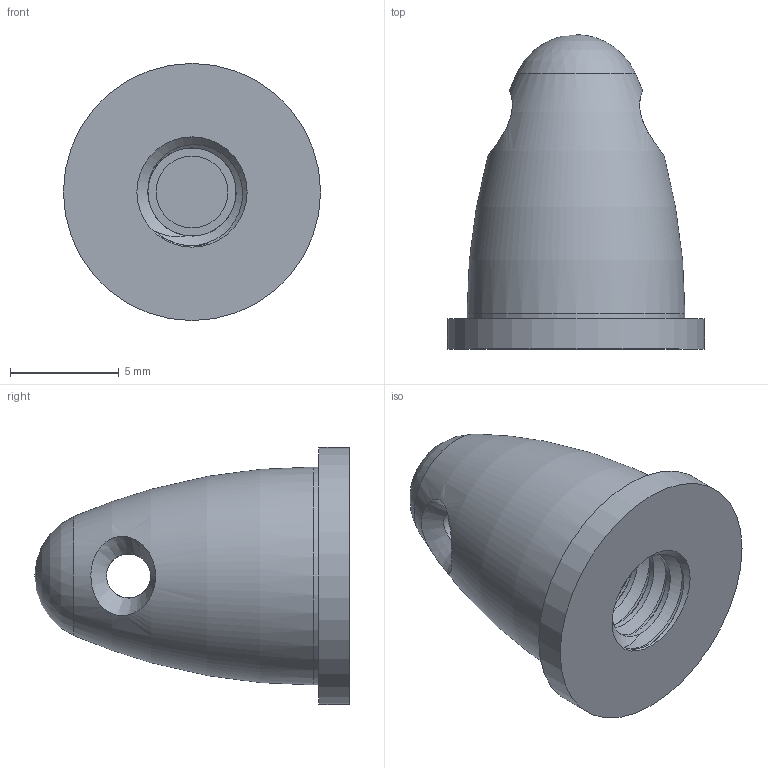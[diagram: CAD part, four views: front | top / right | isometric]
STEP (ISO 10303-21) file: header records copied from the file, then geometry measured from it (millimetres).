
FILE_DESCRIPTION(/* description */ ('STEP AP214','CAx-IF Rec.Pracs.---User Defined Attributes---1.5---2016-08-15'),/* implementation_level */ '2;1');
FILE_NAME(/* name */ '6adec06d98f5f667e21299c1',/* time_stamp */ '2026-10-26T02:52:30Z',/* author */ (''),/* organization */ (''),/* preprocessor_version */ 'ST-DEVELOPER v20',/* originating_system */ 'ONSHAPE BY PTC INC, 1.222',/* authorisation */ ' ');
FILE_SCHEMA (('AUTOMOTIVE_DESIGN {1 0 10303 214 3 1 1}'));
Length unit declared in the file: metre
Products named in the file (1): BLDC_A2212_13T_1000KV_PropNut-1
Bounding box: 11.84 x 14.48 x 11.84 mm (x, y, z)
Volume: 652.4 mm3; surface area: 752.4 mm2
Topology: 1 solids, 1 shells, 33 faces, 94 edges, 62 vertices
Faces by surface type: cylinder 16, bspline 9, plane 5, cone 1, torus 1, sphere 1
Full cylindrical faces by diameter (mm): 2.032 x1, 3.302 x1, 4.064 x1, 10.033 x1, 11.836 x1
Entity records: 4095 total; most frequent: CARTESIAN_POINT 3443, ORIENTED_EDGE 148, DIRECTION 77, EDGE_CURVE 74, B_SPLINE_CURVE_WITH_KNOTS 60, VERTEX_POINT 53, EDGE_LOOP 47, FACE_BOUND 47
